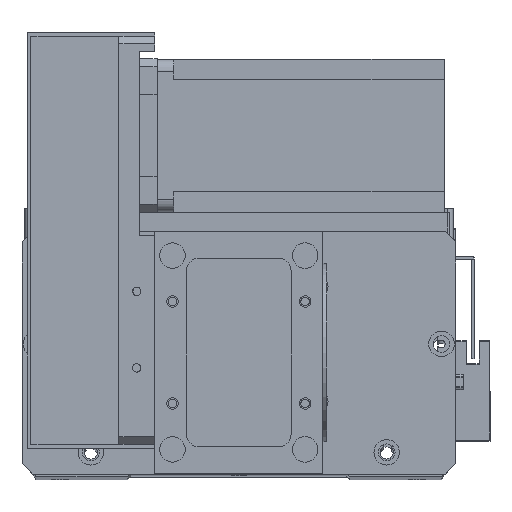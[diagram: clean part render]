
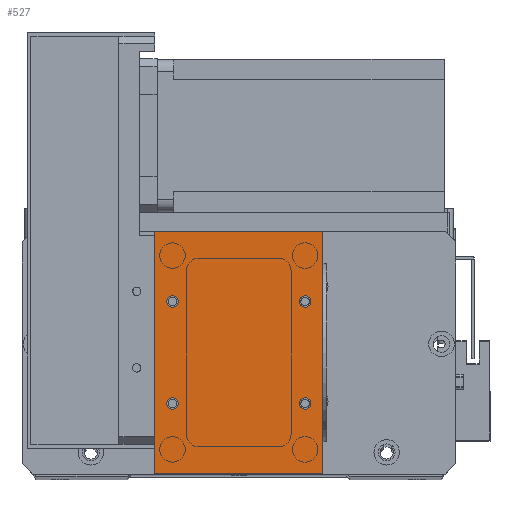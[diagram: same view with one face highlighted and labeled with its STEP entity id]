
A CAD part, top view. The second image highlights one B-rep face of the part: STEP entity #527.
In plain terms, the highlighted planar face has unit normal (0, 0, 1).
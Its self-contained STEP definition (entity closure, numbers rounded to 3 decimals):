
#332 = CIRCLE ( 'NONE', #21389, 2.25 ) ;
#452 = EDGE_CURVE ( 'NONE', #13191, #1136, #5660, .T. ) ;
#527 = ADVANCED_FACE ( 'NONE', ( #16926, #768, #10535, #4134, #28993 ), #27531, .F. ) ;
#602 = CARTESIAN_POINT ( 'NONE',  ( 66., 95., 2. ) ) ;
#768 = FACE_BOUND ( 'NONE', #3334, .T. ) ;
#1136 = VERTEX_POINT ( 'NONE', #20990 ) ;
#1204 = EDGE_CURVE ( 'NONE', #16041, #3764, #27830, .T. ) ;
#2132 = DIRECTION ( 'NONE',  ( 1., 0., 0. ) ) ;
#2543 = EDGE_LOOP ( 'NONE', ( #17508, #25691 ) ) ;
#2589 = ORIENTED_EDGE ( 'NONE', *, *, #452, .F. ) ;
#2895 = DIRECTION ( 'NONE',  ( 0., 0., 1. ) ) ;
#2991 = CARTESIAN_POINT ( 'NONE',  ( 7., 27.5, 2. ) ) ;
#3334 = EDGE_LOOP ( 'NONE', ( #14618, #21799 ) ) ;
#3582 = EDGE_LOOP ( 'NONE', ( #4339, #29441, #10289, #23221 ) ) ;
#3764 = VERTEX_POINT ( 'NONE', #3783 ) ;
#3783 = CARTESIAN_POINT ( 'NONE',  ( 56.75, 67.5, 2. ) ) ;
#4039 = LINE ( 'NONE', #22021, #15334 ) ;
#4134 = FACE_BOUND ( 'NONE', #18604, .T. ) ;
#4165 = AXIS2_PLACEMENT_3D ( 'NONE', #19423, #5033, #21832 ) ;
#4339 = ORIENTED_EDGE ( 'NONE', *, *, #24267, .T. ) ;
#4814 = EDGE_CURVE ( 'NONE', #22350, #25601, #332, .T. ) ;
#5033 = DIRECTION ( 'NONE',  ( 0., 0., 1. ) ) ;
#5226 = CARTESIAN_POINT ( 'NONE',  ( 0., 95., 2. ) ) ;
#5378 = EDGE_CURVE ( 'NONE', #1136, #13191, #17231, .T. ) ;
#5660 = CIRCLE ( 'NONE', #8129, 2.25 ) ;
#5698 = EDGE_CURVE ( 'NONE', #3764, #16041, #22480, .T. ) ;
#5781 = EDGE_CURVE ( 'NONE', #30153, #6903, #7421, .T. ) ;
#5889 = DIRECTION ( 'NONE',  ( 0., 0., 1. ) ) ;
#6903 = VERTEX_POINT ( 'NONE', #27698 ) ;
#7421 = LINE ( 'NONE', #11619, #25888 ) ;
#7667 = CIRCLE ( 'NONE', #19161, 2.25 ) ;
#8129 = AXIS2_PLACEMENT_3D ( 'NONE', #2991, #18540, #13309 ) ;
#8658 = DIRECTION ( 'NONE',  ( 0., 0., -1. ) ) ;
#8911 = CIRCLE ( 'NONE', #4165, 2.25 ) ;
#8942 = LINE ( 'NONE', #14625, #21725 ) ;
#10104 = CARTESIAN_POINT ( 'NONE',  ( 59., 27.5, 2. ) ) ;
#10289 = ORIENTED_EDGE ( 'NONE', *, *, #17563, .T. ) ;
#10530 = AXIS2_PLACEMENT_3D ( 'NONE', #17322, #2895, #19729 ) ;
#10535 = FACE_BOUND ( 'NONE', #2543, .T. ) ;
#10739 = VECTOR ( 'NONE', #14968, 1000. ) ;
#11330 = CARTESIAN_POINT ( 'NONE',  ( 61.25, 67.5, 2. ) ) ;
#11619 = CARTESIAN_POINT ( 'NONE',  ( 0., 0., 2. ) ) ;
#12103 = DIRECTION ( 'NONE',  ( 0., 1., 0. ) ) ;
#12485 = DIRECTION ( 'NONE',  ( 0., -1., 0. ) ) ;
#12540 = DIRECTION ( 'NONE',  ( 1., 0., 0. ) ) ;
#12550 = CARTESIAN_POINT ( 'NONE',  ( 0., 95., 2. ) ) ;
#12819 = CARTESIAN_POINT ( 'NONE',  ( 61.25, 27.5, 2. ) ) ;
#13191 = VERTEX_POINT ( 'NONE', #13500 ) ;
#13309 = DIRECTION ( 'NONE',  ( 1., 0., 0. ) ) ;
#13500 = CARTESIAN_POINT ( 'NONE',  ( 9.25, 27.5, 2. ) ) ;
#13735 = CARTESIAN_POINT ( 'NONE',  ( 59., 67.5, 2. ) ) ;
#14618 = ORIENTED_EDGE ( 'NONE', *, *, #1204, .F. ) ;
#14625 = CARTESIAN_POINT ( 'NONE',  ( 66., 0., 2. ) ) ;
#14784 = AXIS2_PLACEMENT_3D ( 'NONE', #13735, #30571, #16142 ) ;
#14968 = DIRECTION ( 'NONE',  ( -1., 0., 0. ) ) ;
#15334 = VECTOR ( 'NONE', #12485, 1000. ) ;
#15833 = ORIENTED_EDGE ( 'NONE', *, *, #18034, .F. ) ;
#16041 = VERTEX_POINT ( 'NONE', #11330 ) ;
#16142 = DIRECTION ( 'NONE',  ( 1., 0., 0. ) ) ;
#16267 = ORIENTED_EDGE ( 'NONE', *, *, #4814, .F. ) ;
#16550 = DIRECTION ( 'NONE',  ( 0., 0., 1. ) ) ;
#16885 = EDGE_LOOP ( 'NONE', ( #16267, #15833 ) ) ;
#16926 = FACE_BOUND ( 'NONE', #16885, .T. ) ;
#17231 = CIRCLE ( 'NONE', #10530, 2.25 ) ;
#17322 = CARTESIAN_POINT ( 'NONE',  ( 7., 27.5, 2. ) ) ;
#17508 = ORIENTED_EDGE ( 'NONE', *, *, #22371, .F. ) ;
#17563 = EDGE_CURVE ( 'NONE', #6903, #21194, #8942, .T. ) ;
#17808 = AXIS2_PLACEMENT_3D ( 'NONE', #22229, #8658, #19809 ) ;
#18034 = EDGE_CURVE ( 'NONE', #25601, #22350, #8911, .T. ) ;
#18540 = DIRECTION ( 'NONE',  ( 0., 0., 1. ) ) ;
#18604 = EDGE_LOOP ( 'NONE', ( #2589, #24537 ) ) ;
#18663 = EDGE_CURVE ( 'NONE', #21194, #26065, #23537, .T. ) ;
#19161 = AXIS2_PLACEMENT_3D ( 'NONE', #30978, #16550, #2132 ) ;
#19423 = CARTESIAN_POINT ( 'NONE',  ( 7., 67.5, 2. ) ) ;
#19729 = DIRECTION ( 'NONE',  ( 1., 0., 0. ) ) ;
#19809 = DIRECTION ( 'NONE',  ( -1., 0., 0. ) ) ;
#19833 = AXIS2_PLACEMENT_3D ( 'NONE', #24278, #24841, #23630 ) ;
#19962 = AXIS2_PLACEMENT_3D ( 'NONE', #10104, #26967, #12540 ) ;
#20287 = CARTESIAN_POINT ( 'NONE',  ( 7., 67.5, 2. ) ) ;
#20635 = VERTEX_POINT ( 'NONE', #27613 ) ;
#20990 = CARTESIAN_POINT ( 'NONE',  ( 4.75, 27.5, 2. ) ) ;
#21049 = CARTESIAN_POINT ( 'NONE',  ( 0., 0., 2. ) ) ;
#21194 = VERTEX_POINT ( 'NONE', #602 ) ;
#21252 = VERTEX_POINT ( 'NONE', #12819 ) ;
#21389 = AXIS2_PLACEMENT_3D ( 'NONE', #20287, #5889, #22703 ) ;
#21725 = VECTOR ( 'NONE', #12103, 1000. ) ;
#21799 = ORIENTED_EDGE ( 'NONE', *, *, #5698, .F. ) ;
#21832 = DIRECTION ( 'NONE',  ( 1., 0., 0. ) ) ;
#21983 = CARTESIAN_POINT ( 'NONE',  ( 9.25, 67.5, 2. ) ) ;
#22021 = CARTESIAN_POINT ( 'NONE',  ( 0., 0., 2. ) ) ;
#22229 = CARTESIAN_POINT ( 'NONE',  ( 0., 0., 2. ) ) ;
#22350 = VERTEX_POINT ( 'NONE', #21983 ) ;
#22371 = EDGE_CURVE ( 'NONE', #21252, #20635, #24845, .T. ) ;
#22480 = CIRCLE ( 'NONE', #14784, 2.25 ) ;
#22703 = DIRECTION ( 'NONE',  ( 1., 0., 0. ) ) ;
#23221 = ORIENTED_EDGE ( 'NONE', *, *, #18663, .T. ) ;
#23537 = LINE ( 'NONE', #12550, #10739 ) ;
#23630 = DIRECTION ( 'NONE',  ( 1., 0., 0. ) ) ;
#24267 = EDGE_CURVE ( 'NONE', #26065, #30153, #4039, .T. ) ;
#24278 = CARTESIAN_POINT ( 'NONE',  ( 59., 67.5, 2. ) ) ;
#24537 = ORIENTED_EDGE ( 'NONE', *, *, #5378, .F. ) ;
#24841 = DIRECTION ( 'NONE',  ( 0., 0., 1. ) ) ;
#24845 = CIRCLE ( 'NONE', #19962, 2.25 ) ;
#25601 = VERTEX_POINT ( 'NONE', #29770 ) ;
#25691 = ORIENTED_EDGE ( 'NONE', *, *, #26525, .F. ) ;
#25888 = VECTOR ( 'NONE', #26049, 1000. ) ;
#26049 = DIRECTION ( 'NONE',  ( 1., 0., 0. ) ) ;
#26065 = VERTEX_POINT ( 'NONE', #5226 ) ;
#26525 = EDGE_CURVE ( 'NONE', #20635, #21252, #7667, .T. ) ;
#26967 = DIRECTION ( 'NONE',  ( 0., 0., 1. ) ) ;
#27531 = PLANE ( 'NONE',  #17808 ) ;
#27613 = CARTESIAN_POINT ( 'NONE',  ( 56.75, 27.5, 2. ) ) ;
#27698 = CARTESIAN_POINT ( 'NONE',  ( 66., 0., 2. ) ) ;
#27830 = CIRCLE ( 'NONE', #19833, 2.25 ) ;
#28993 = FACE_OUTER_BOUND ( 'NONE', #3582, .T. ) ;
#29441 = ORIENTED_EDGE ( 'NONE', *, *, #5781, .T. ) ;
#29770 = CARTESIAN_POINT ( 'NONE',  ( 4.75, 67.5, 2. ) ) ;
#30153 = VERTEX_POINT ( 'NONE', #21049 ) ;
#30571 = DIRECTION ( 'NONE',  ( 0., 0., 1. ) ) ;
#30978 = CARTESIAN_POINT ( 'NONE',  ( 59., 27.5, 2. ) ) ;
